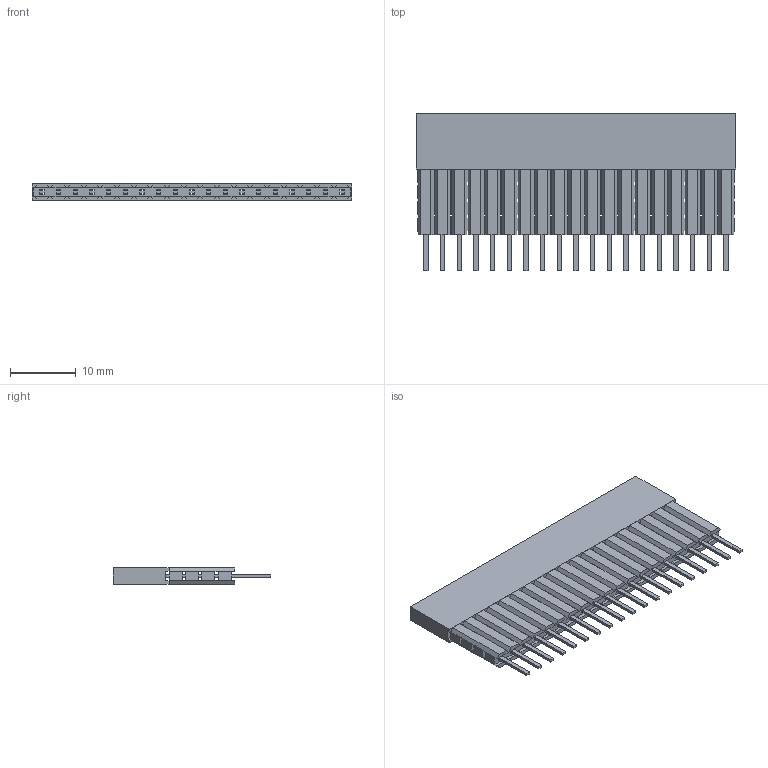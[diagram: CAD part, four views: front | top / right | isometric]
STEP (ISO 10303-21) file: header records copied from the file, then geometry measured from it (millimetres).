
FILE_DESCRIPTION(/* description */ (''),/* implementation_level */ '2;1');
FILE_NAME(/* name */ 'PM254-1-19-Z-C18.5-XX-4LP(L24.0)(2.54 单排 排母 直针 加4层塑胶-HCTL).stp',/* time_stamp */ '2026-10-24T14:55:12+08:00',/* author */ (''),/* organization */ (''),/* preprocessor_version */ 'ST-DEVELOPER v16',/* originating_system */ 'SIEMENS PLM Software NX 10.0',/* authorisation */ '');
FILE_SCHEMA (('AUTOMOTIVE_DESIGN { 1 0 10303 214 3 1 1 1 }'));
Length unit declared in the file: millimetre
Products named in the file (1): PM254-1-N-Z-C18.5-XX-4LP_L24.0__2.54 单排 排母 
直针 加4层塑胶-HCTL__step
Bounding box: 48.66 x 24 x 2.5 mm (x, y, z)
Volume: 1904.6 mm3; surface area: 4519.1 mm2
Topology: 2 solids, 2 shells, 1060 faces, 3264 edges, 1948 vertices
Faces by surface type: plane 1060
Entity records: 35645 total; most frequent: ORIENTED_EDGE 6528, CARTESIAN_POINT 6273, DIRECTION 5386, EDGE_CURVE 3264, LINE 3264, VECTOR 3264, VERTEX_POINT 1948, EDGE_LOOP 1250
